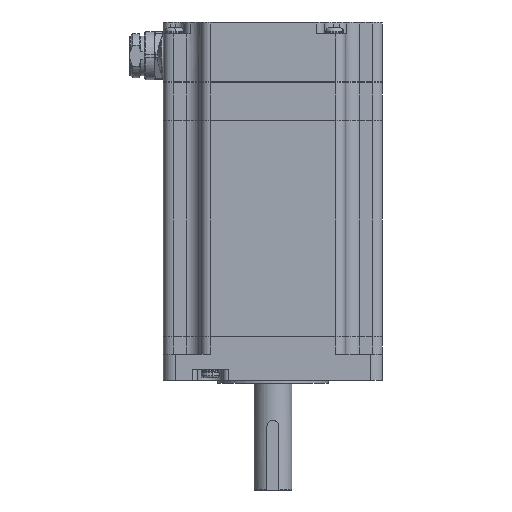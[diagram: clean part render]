
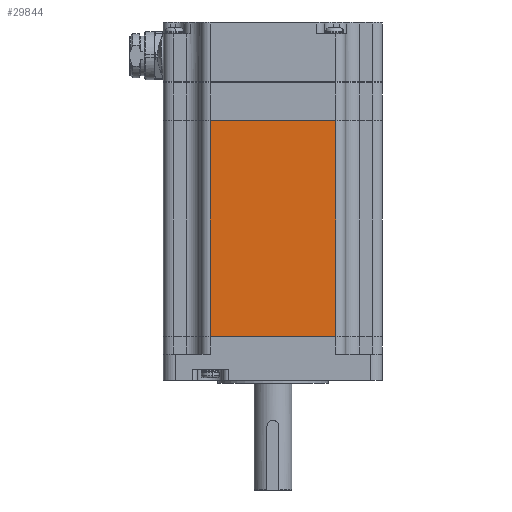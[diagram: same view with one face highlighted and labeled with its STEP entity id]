
A CAD part, front view. The second image highlights one B-rep face of the part: STEP entity #29844.
In plain terms, the highlighted planar face has unit normal (0, -1, 0).
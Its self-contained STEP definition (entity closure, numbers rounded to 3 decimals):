
#4552 = DIRECTION ( 'NONE',  ( 0., 0., 1. ) ) ;
#4627 = VERTEX_POINT ( 'NONE', #67594 ) ;
#4857 = DIRECTION ( 'NONE',  ( 1., 0., 0. ) ) ;
#5858 = PLANE ( 'NONE',  #11388 ) ;
#6038 = CARTESIAN_POINT ( 'NONE',  ( -31.5, -55., -2.8 ) ) ;
#6895 = VECTOR ( 'NONE', #36829, 1000. ) ;
#10802 = CARTESIAN_POINT ( 'NONE',  ( 31.5, -55., -2.8 ) ) ;
#11310 = DIRECTION ( 'NONE',  ( 1., 0., 0. ) ) ;
#11388 = AXIS2_PLACEMENT_3D ( 'NONE', #81896, #24402, #13734 ) ;
#13734 = DIRECTION ( 'NONE',  ( 1., 0., 0. ) ) ;
#16079 = VECTOR ( 'NONE', #11310, 1000. ) ;
#18297 = LINE ( 'NONE', #10802, #6895 ) ;
#19329 = ORIENTED_EDGE ( 'NONE', *, *, #67889, .T. ) ;
#19465 = VERTEX_POINT ( 'NONE', #6038 ) ;
#22703 = CARTESIAN_POINT ( 'NONE',  ( -31.5, -55., -2.8 ) ) ;
#23968 = CARTESIAN_POINT ( 'NONE',  ( 31.5, -55., 105.62 ) ) ;
#24155 = CARTESIAN_POINT ( 'NONE',  ( 31.5, -55., -2.8 ) ) ;
#24402 = DIRECTION ( 'NONE',  ( 0., -1., 0. ) ) ;
#29844 = ADVANCED_FACE ( 'NONE', ( #75145 ), #5858, .T. ) ;
#30230 = LINE ( 'NONE', #69208, #16079 ) ;
#31450 = EDGE_CURVE ( 'NONE', #19465, #4627, #62074, .T. ) ;
#32745 = VERTEX_POINT ( 'NONE', #23968 ) ;
#36829 = DIRECTION ( 'NONE',  ( 0., 0., 1. ) ) ;
#37146 = EDGE_CURVE ( 'NONE', #4627, #32745, #49800, .T. ) ;
#40310 = VERTEX_POINT ( 'NONE', #24155 ) ;
#45556 = ORIENTED_EDGE ( 'NONE', *, *, #31450, .F. ) ;
#45570 = ORIENTED_EDGE ( 'NONE', *, *, #60596, .T. ) ;
#49800 = LINE ( 'NONE', #75375, #77486 ) ;
#60026 = VECTOR ( 'NONE', #4552, 1000. ) ;
#60596 = EDGE_CURVE ( 'NONE', #40310, #32745, #18297, .T. ) ;
#62074 = LINE ( 'NONE', #22703, #60026 ) ;
#67594 = CARTESIAN_POINT ( 'NONE',  ( -31.5, -55., 105.62 ) ) ;
#67889 = EDGE_CURVE ( 'NONE', #19465, #40310, #30230, .T. ) ;
#69208 = CARTESIAN_POINT ( 'NONE',  ( 31.5, -55., -2.8 ) ) ;
#75008 = ORIENTED_EDGE ( 'NONE', *, *, #37146, .F. ) ;
#75145 = FACE_OUTER_BOUND ( 'NONE', #77546, .T. ) ;
#75375 = CARTESIAN_POINT ( 'NONE',  ( 31.5, -55., 105.62 ) ) ;
#77486 = VECTOR ( 'NONE', #4857, 1000. ) ;
#77546 = EDGE_LOOP ( 'NONE', ( #75008, #45556, #19329, #45570 ) ) ;
#81896 = CARTESIAN_POINT ( 'NONE',  ( 31.5, -55., -2.8 ) ) ;
